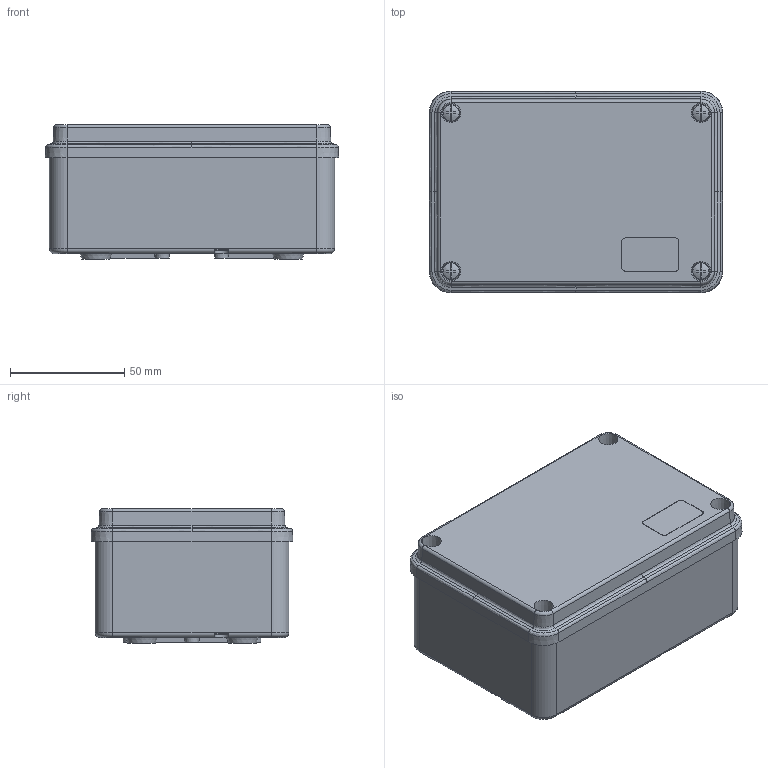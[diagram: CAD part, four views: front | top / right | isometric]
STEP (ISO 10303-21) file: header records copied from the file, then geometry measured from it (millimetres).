
FILE_DESCRIPTION(/* description */ (''),/* implementation_level */ '2;1');
FILE_NAME(/* name */ '4009135.stp',/* time_stamp */ '2019-03-05T01:00:00+01:00',/* author */ (''),/* organization */ (''),/* preprocessor_version */ 'ST-DEVELOPER v16.7',/* originating_system */ 'SIEMENS PLM Software NX 12.0',/* authorisation */ '');
FILE_SCHEMA (('AUTOMOTIVE_DESIGN { 1 0 10303 214 3 1 1 1 }'));
Length unit declared in the file: millimetre
Products named in the file (1): BSOM0DCCF74Fw5no
Bounding box: 128.2 x 88.2 x 58.8 mm (x, y, z)
Volume: 112874.9 mm3; surface area: 106513.8 mm2
Topology: 6 solids, 6 shells, 716 faces, 1794 edges, 1130 vertices
Faces by surface type: plane 321, cylinder 165, cone 98, torus 64, bspline 52, sphere 16
Full cylindrical faces by diameter (mm): 3.2 x4, 4 x4, 7.5 x4, 10 x4, 13 x4
Entity records: 25042 total; most frequent: CARTESIAN_POINT 8566, DIRECTION 3364, ORIENTED_EDGE 3344, EDGE_CURVE 1672, AXIS2_PLACEMENT_3D 1259, VERTEX_POINT 1112, EDGE_LOOP 868, LINE 846
